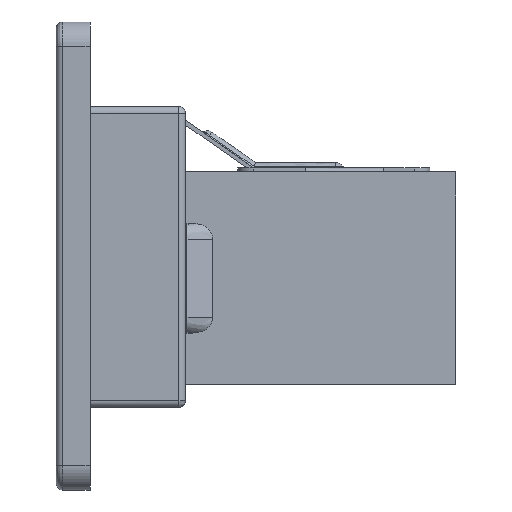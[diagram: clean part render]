
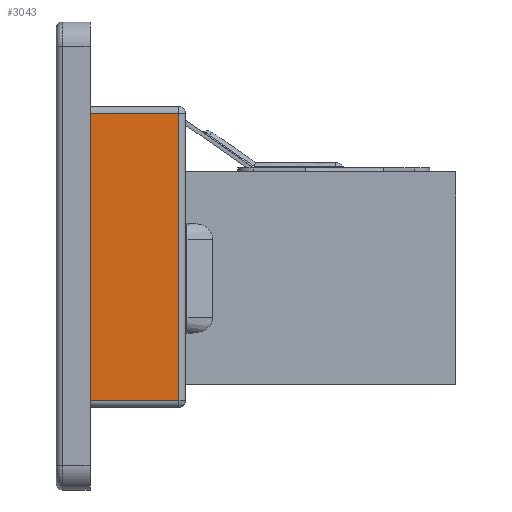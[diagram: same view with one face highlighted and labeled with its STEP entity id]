
A CAD part, front view. The second image highlights one B-rep face of the part: STEP entity #3043.
In plain terms, the highlighted free-form (B-spline) face has degree [1, 1] with [2, 2] control points.
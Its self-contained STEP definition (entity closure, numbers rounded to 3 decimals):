
#286 = VERTEX_POINT('',#287);
#287 = CARTESIAN_POINT('',(2.56,-8.4,6.779));
#307 = EDGE_CURVE('',#308,#286,#310,.T.);
#308 = VERTEX_POINT('',#309);
#309 = CARTESIAN_POINT('',(2.56,-8.4,28.579));
#310 = B_SPLINE_CURVE_WITH_KNOTS('',5,(#311,#312,#313,#314,#315,#316),
  .UNSPECIFIED.,.F.,.F.,(6,6),(0.,21.8),.PIECEWISE_BEZIER_KNOTS.);
#311 = CARTESIAN_POINT('',(2.56,-8.4,28.579));
#312 = CARTESIAN_POINT('',(2.56,-8.4,24.219));
#313 = CARTESIAN_POINT('',(2.56,-8.4,19.859));
#314 = CARTESIAN_POINT('',(2.56,-8.4,15.499));
#315 = CARTESIAN_POINT('',(2.56,-8.4,11.139));
#316 = CARTESIAN_POINT('',(2.56,-8.4,6.779));
#2025 = VERTEX_POINT('',#2026);
#2026 = CARTESIAN_POINT('',(9.3,-8.4,6.779));
#2305 = VERTEX_POINT('',#2306);
#2306 = CARTESIAN_POINT('',(9.3,-8.4,28.579));
#2426 = EDGE_CURVE('',#308,#2305,#2427,.T.);
#2427 = B_SPLINE_CURVE_WITH_KNOTS('',5,(#2428,#2429,#2430,#2431,#2432,
    #2433),.UNSPECIFIED.,.F.,.F.,(6,6),(0.,6.74),
  .PIECEWISE_BEZIER_KNOTS.);
#2428 = CARTESIAN_POINT('',(2.56,-8.4,28.579));
#2429 = CARTESIAN_POINT('',(3.908,-8.4,28.579));
#2430 = CARTESIAN_POINT('',(5.256,-8.4,28.579));
#2431 = CARTESIAN_POINT('',(6.604,-8.4,28.579));
#2432 = CARTESIAN_POINT('',(7.952,-8.4,28.579));
#2433 = CARTESIAN_POINT('',(9.3,-8.4,28.579));
#2460 = EDGE_CURVE('',#2305,#2025,#2461,.T.);
#2461 = B_SPLINE_CURVE_WITH_KNOTS('',5,(#2462,#2463,#2464,#2465,#2466,
    #2467),.UNSPECIFIED.,.F.,.F.,(6,6),(0.,21.8),
  .PIECEWISE_BEZIER_KNOTS.);
#2462 = CARTESIAN_POINT('',(9.3,-8.4,28.579));
#2463 = CARTESIAN_POINT('',(9.3,-8.4,24.219));
#2464 = CARTESIAN_POINT('',(9.3,-8.4,19.859));
#2465 = CARTESIAN_POINT('',(9.3,-8.4,15.499));
#2466 = CARTESIAN_POINT('',(9.3,-8.4,11.139));
#2467 = CARTESIAN_POINT('',(9.3,-8.4,6.779));
#2504 = EDGE_CURVE('',#2025,#286,#2505,.T.);
#2505 = B_SPLINE_CURVE_WITH_KNOTS('',5,(#2506,#2507,#2508,#2509,#2510,
    #2511),.UNSPECIFIED.,.F.,.F.,(6,6),(0.,6.74),
  .PIECEWISE_BEZIER_KNOTS.);
#2506 = CARTESIAN_POINT('',(9.3,-8.4,6.779));
#2507 = CARTESIAN_POINT('',(7.952,-8.4,6.779));
#2508 = CARTESIAN_POINT('',(6.604,-8.4,6.779));
#2509 = CARTESIAN_POINT('',(5.256,-8.4,6.779));
#2510 = CARTESIAN_POINT('',(3.908,-8.4,6.779));
#2511 = CARTESIAN_POINT('',(2.56,-8.4,6.779));
#3043 = ADVANCED_FACE('',(#3044),#3050,.T.);
#3044 = FACE_BOUND('',#3045,.T.);
#3045 = EDGE_LOOP('',(#3046,#3047,#3048,#3049));
#3046 = ORIENTED_EDGE('',*,*,#2426,.F.);
#3047 = ORIENTED_EDGE('',*,*,#307,.T.);
#3048 = ORIENTED_EDGE('',*,*,#2504,.F.);
#3049 = ORIENTED_EDGE('',*,*,#2460,.F.);
#3050 = B_SPLINE_SURFACE_WITH_KNOTS('',1,1,(
    (#3051,#3052)
    ,(#3053,#3054
    )),.UNSPECIFIED.,.F.,.F.,.F.,(2,2),(2,2),(0.,21.8),(0.,6.74),
  .PIECEWISE_BEZIER_KNOTS.);
#3051 = CARTESIAN_POINT('',(2.56,-8.4,28.579));
#3052 = CARTESIAN_POINT('',(9.3,-8.4,28.579));
#3053 = CARTESIAN_POINT('',(2.56,-8.4,6.779));
#3054 = CARTESIAN_POINT('',(9.3,-8.4,6.779));
